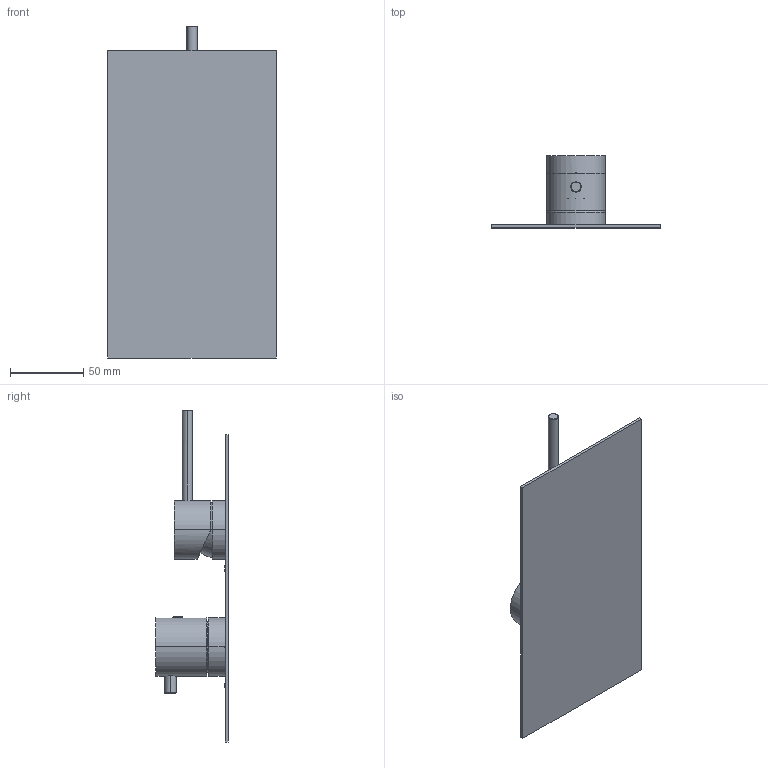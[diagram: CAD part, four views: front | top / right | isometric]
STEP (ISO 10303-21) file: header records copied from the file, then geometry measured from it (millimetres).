
FILE_DESCRIPTION((''),'2;1');
FILE_NAME('69523V221_SW0001','2025-11-19T16:17:09',('carloff'),(''),'CREO PARAMETRIC BY PTC INC, 2022014','CREO PARAMETRIC BY PTC INC, 2022014','');
FILE_SCHEMA(('CONFIG_CONTROL_DESIGN'));
Length unit declared in the file: millimetre
Products named in the file (1): 69523V221_SW0001
Bounding box: 115 x 49.6 x 227 mm (x, y, z)
Volume: 134417.9 mm3; surface area: 68533.3 mm2
Topology: 2 solids, 2 shells, 99 faces, 224 edges, 141 vertices
Faces by surface type: plane 43, cylinder 32, torus 14, cone 6, bspline 2, sphere 2
Entity records: 3142 total; most frequent: CARTESIAN_POINT 840, DIRECTION 498, ORIENTED_EDGE 444, EDGE_CURVE 222, AXIS2_PLACEMENT_3D 197, VERTEX_POINT 141, EDGE_LOOP 115, VECTOR 104
